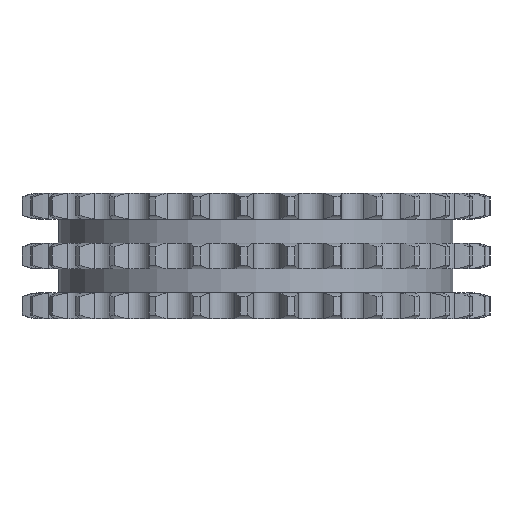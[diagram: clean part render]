
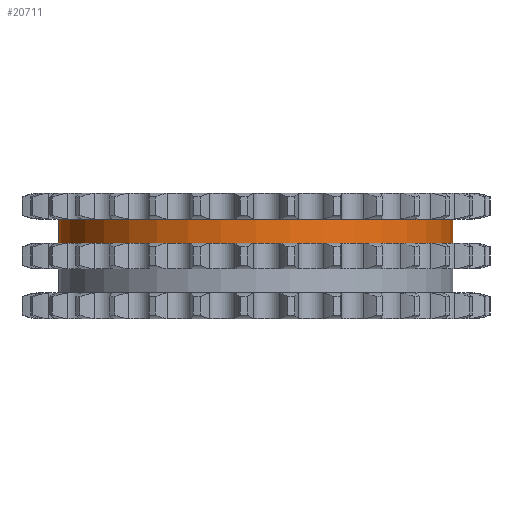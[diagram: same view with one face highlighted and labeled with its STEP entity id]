
A CAD part, left-side view. The second image highlights one B-rep face of the part: STEP entity #20711.
In plain terms, the highlighted cylindrical face has radius 54.767 mm (diameter 109.533 mm), a partial arc.
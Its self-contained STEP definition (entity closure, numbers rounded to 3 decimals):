
#1940=DIRECTION('',(0.,0.,-1.));
#1941=VECTOR('',#1940,6.65);
#1942=CARTESIAN_POINT('',(0.,54.767,10.25));
#1943=LINE('',#1942,#1941);
#1947=CARTESIAN_POINT('',(0.,0.,10.25));
#1948=DIRECTION('',(0.,0.,1.));
#1949=DIRECTION('',(0.,1.,0.));
#1950=AXIS2_PLACEMENT_3D('',#1947,#1948,#1949);
#1955=DIRECTION('',(0.,0.,-1.));
#1956=VECTOR('',#1955,6.65);
#1957=CARTESIAN_POINT('',(0.,-54.767,10.25));
#1958=LINE('',#1957,#1956);
#1962=CARTESIAN_POINT('',(0.,0.,3.6));
#1963=DIRECTION('',(0.,0.,1.));
#1964=DIRECTION('',(0.,1.,0.));
#1965=AXIS2_PLACEMENT_3D('',#1962,#1963,#1964);
#16621=CARTESIAN_POINT('',(0.,54.767,10.25));
#16622=CARTESIAN_POINT('',(0.,54.767,3.6));
#16623=VERTEX_POINT('',#16621);
#16624=VERTEX_POINT('',#16622);
#16625=CARTESIAN_POINT('',(0.,-54.767,10.25));
#16626=CARTESIAN_POINT('',(0.,-54.767,3.6));
#16627=VERTEX_POINT('',#16625);
#16628=VERTEX_POINT('',#16626);
#20699=CARTESIAN_POINT('',(0.,0.,11.275));
#20700=DIRECTION('',(0.,0.,-1.));
#20701=DIRECTION('',(0.,-1.,0.));
#20702=AXIS2_PLACEMENT_3D('',#20699,#20700,#20701);
#20703=CYLINDRICAL_SURFACE('',#20702,54.767);
#20704=ORIENTED_EDGE('',*,*,#20689,.F.);
#20705=ORIENTED_EDGE('',*,*,#20679,.T.);
#20706=ORIENTED_EDGE('',*,*,#20693,.T.);
#20708=ORIENTED_EDGE('',*,*,#20707,.F.);
#20709=EDGE_LOOP('',(#20704,#20705,#20706,#20708));
#20710=FACE_OUTER_BOUND('',#20709,.F.);
#20711=ADVANCED_FACE('',(#20710),#20703,.T.);
#1951=CIRCLE('',#1950,54.767);
#1966=CIRCLE('',#1965,54.767);
#20679=EDGE_CURVE('',#16623,#16627,#1951,.T.);
#20689=EDGE_CURVE('',#16623,#16624,#1943,.T.);
#20693=EDGE_CURVE('',#16627,#16628,#1958,.T.);
#20707=EDGE_CURVE('',#16624,#16628,#1966,.T.);
